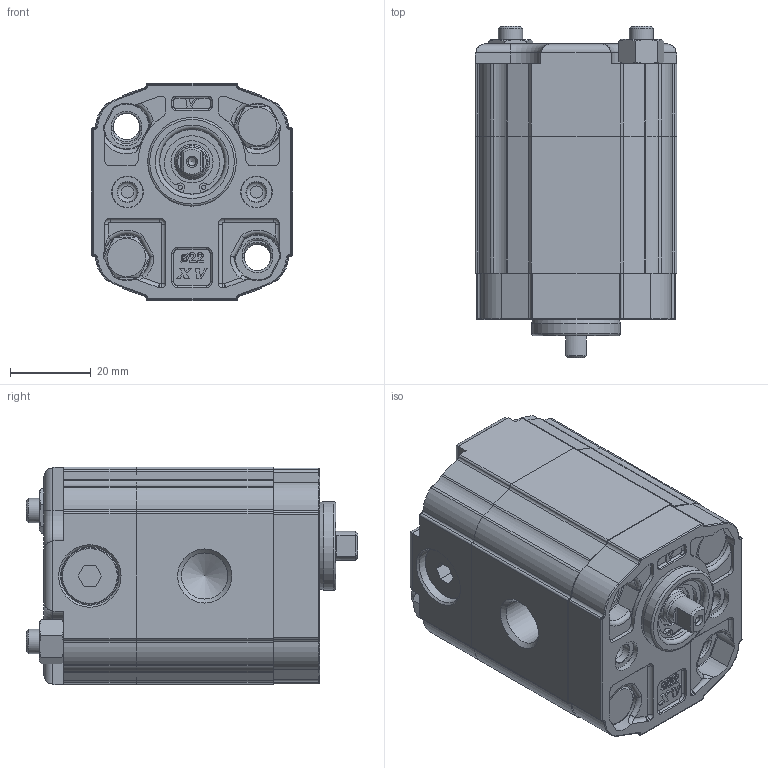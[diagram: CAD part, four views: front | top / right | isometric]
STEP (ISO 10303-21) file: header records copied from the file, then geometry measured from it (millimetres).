
FILE_DESCRIPTION(/* description */ ('Unknown'),/* implementation_level */ '2;1');
FILE_NAME(/* name */ 'X0M0621BBBF',/* time_stamp */ '2021-06-04T14:10:03+02:00',/* author */ ('Unknown'),/* organization */ ('Unknown'),/* preprocessor_version */ 'ST-DEVELOPER v16.7',/* originating_system */ 'Solid Edge',/* authorisation */ 'Unknown');
FILE_SCHEMA (('AUTOMOTIVE_DESIGN {1 0 10303 214 3 1 1}'));
Length unit declared in the file: millimetre
Products named in the file (5): X0M0621BBBF; X0M21; 0B; X0BBH34; XM017-F
Assembly tree (4 placements, depth 2):
  X0M0621BBBF
    X0M21
    0B
    X0BBH34
    XM017-F
Bounding box: 50 x 82.3 x 54 mm (x, y, z)
Volume: 151095.4 mm3; surface area: 38886.1 mm2
Topology: 4 solids, 9 shells, 813 faces, 2079 edges, 1319 vertices
Faces by surface type: plane 350, cylinder 289, cone 71, torus 69, bspline 30, sphere 4
Full cylindrical faces by diameter (mm): 1.053 x2, 2 x1, 5 x2, 6 x4, 6.01 x2, 6.5 x6, 7.16 x1, 7.5 x2, 7.9 x2, 7.92 x1, 8 x2, 8.1 x2, 8.566 x6, 9.318 x1, 10 x4, 10.445 x1, 11 x1, 11.445 x2, 14 x5, 14.5 x2, 16 x1, 16.2 x1, 16.8 x1, 22 x1
Entity records: 29928 total; most frequent: CARTESIAN_POINT 4876, DIRECTION 4145, ORIENTED_EDGE 3862, EDGE_CURVE 1931, AXIS2_PLACEMENT_3D 1563, VERTEX_POINT 1279, LINE 1019, VECTOR 1019
